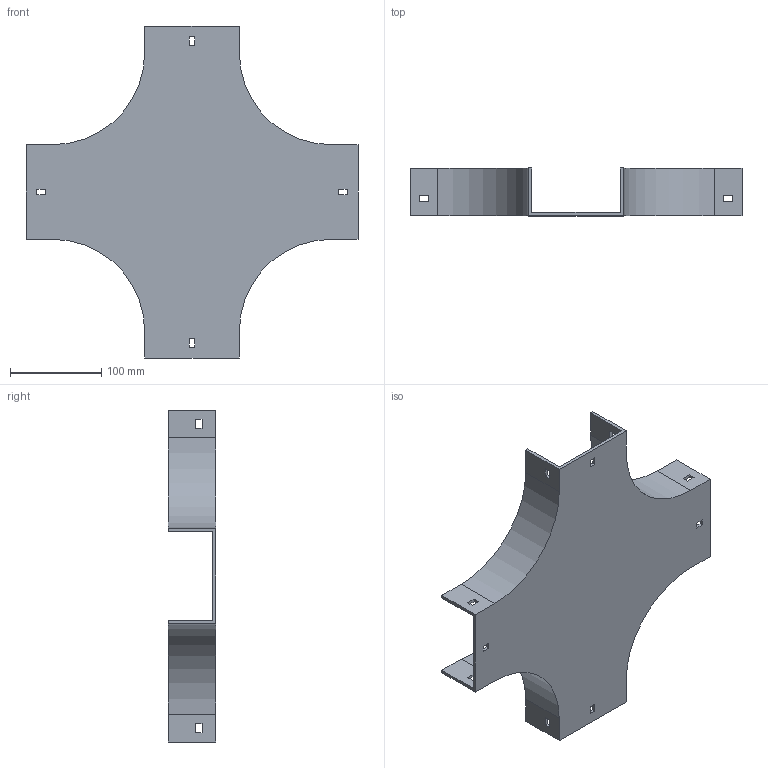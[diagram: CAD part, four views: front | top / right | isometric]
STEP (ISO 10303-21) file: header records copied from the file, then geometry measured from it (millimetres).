
FILE_DESCRIPTION (( 'STEP AP214' ), '1' );
FILE_NAME ('17F1B100.step', '2025-02-21T13:05:36', ( '' ), ( '' ), 'SwSTEP 2.0', 'SolidWorks 2023', '' );
FILE_SCHEMA (( 'AUTOMOTIVE_DESIGN' ));
Length unit declared in the file: millimetre
Products named in the file (1): 17F1B100
Bounding box: 364 x 52 x 364 mm (x, y, z)
Volume: 403664.8 mm3; surface area: 237904.7 mm2
Topology: 1 solids, 1 shells, 82 faces, 240 edges, 160 vertices
Faces by surface type: plane 74, cylinder 8
Entity records: 2751 total; most frequent: CARTESIAN_POINT 483, ORIENTED_EDGE 480, DIRECTION 422, EDGE_CURVE 240, VECTOR 224, LINE 224, VERTEX_POINT 160, EDGE_LOOP 106
